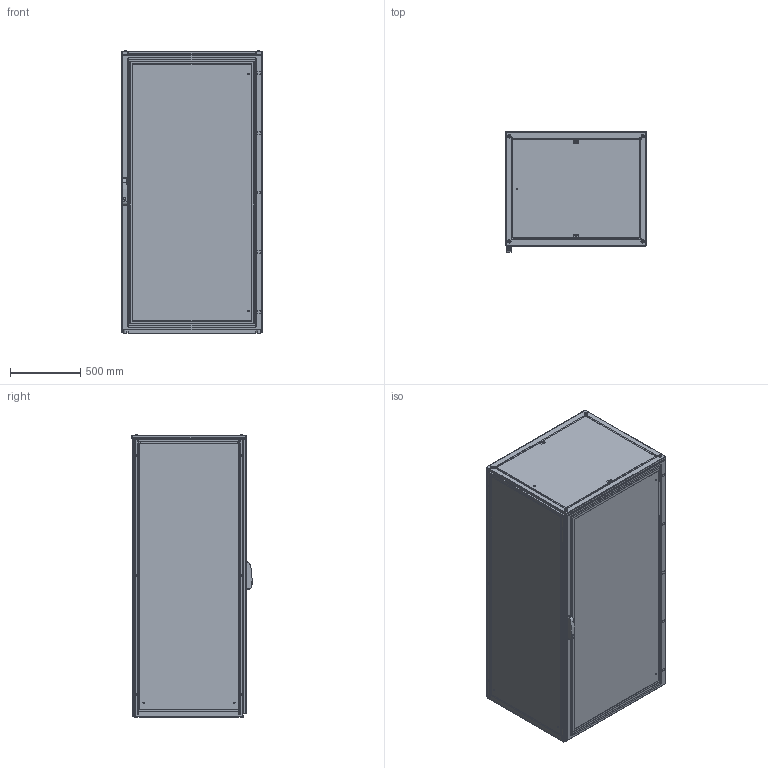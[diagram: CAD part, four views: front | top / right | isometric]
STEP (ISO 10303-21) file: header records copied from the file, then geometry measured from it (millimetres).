
FILE_DESCRIPTION(/* description */ ('STEP AP214'),/* implementation_level */ '2;1');
FILE_NAME(/* name */ 'ENUX102008PR-LOD350',/* time_stamp */ '2025-10-03T14:42:41+02:00',/* author */ ('License CC BY-ND 4.0'),/* organization */ ('CADENAS'),/* preprocessor_version */ 'ST-DEVELOPER v19.3',/* originating_system */ 'PARTsolutions',/* authorisation */ ' ');
FILE_SCHEMA (('AUTOMOTIVE_DESIGN {1 0 10303 214 3 1 1}'));
Length unit declared in the file: millimetre
Products named in the file (11): ENUX102008PR-LOD350; ENUX102008PR-LOD350_CON; ENUX102008PR-LOD350_floor1; ENUX102008PR-LOD350_floor2; Screw M12x30 architecture 350; ENUX102008PR-LOD350_side; ENUX102008PR-LOD350_top; ENUX102008PR-LOD350_back_door_r; ENUX102008PR-LOD350_back_door_l; ENUX102008PR-LOD350_door; ENUX102008PR-LOD350_handle
Assembly tree (26 placements, depth 2):
  ENUX102008PR-LOD350
    ENUX102008PR-LOD350_CON
    ENUX102008PR-LOD350_floor1  x4
    ENUX102008PR-LOD350_floor2  x10
    Screw M12x30 architecture 350  x4
    ENUX102008PR-LOD350_side  x2
    ENUX102008PR-LOD350_top
    ENUX102008PR-LOD350_back_door_r
    ENUX102008PR-LOD350_back_door_l
    ENUX102008PR-LOD350_door
    ENUX102008PR-LOD350_handle
Bounding box: 1012 x 857 x 2014.1 mm (x, y, z)
Volume: 30229247.1 mm3; surface area: 24973611.2 mm2
Topology: 26 solids, 26 shells, 2507 faces, 6960 edges, 4533 vertices
Faces by surface type: plane 1331, cylinder 976, cone 95, torus 88, sphere 17
Full cylindrical faces by diameter (mm): 4.5 x156, 6 x20, 6.8 x8, 7 x4, 9 x11, 12 x16, 13 x4, 14 x2, 17 x2, 18 x1, 21 x4, 28 x2
Entity records: 56601 total; most frequent: DIRECTION 9825, CARTESIAN_POINT 9763, ORIENTED_EDGE 9140, EDGE_CURVE 4570, AXIS2_PLACEMENT_3D 3527, VERTEX_POINT 3208, LINE 2771, VECTOR 2771
